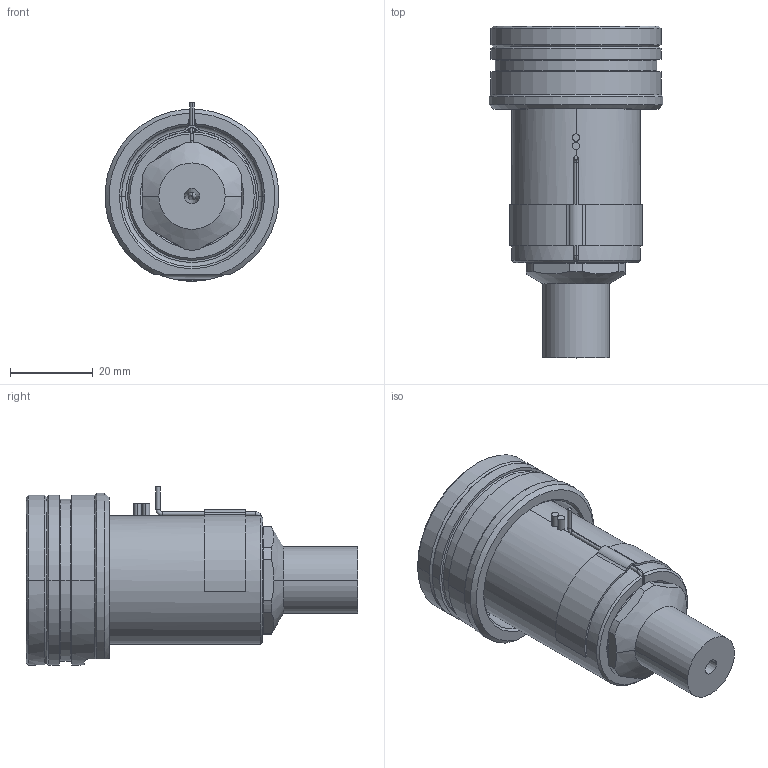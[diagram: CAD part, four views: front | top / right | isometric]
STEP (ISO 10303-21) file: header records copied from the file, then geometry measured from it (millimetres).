
FILE_DESCRIPTION((''),'2;1');
FILE_NAME('EO12_PG-FBE_STD_050_SW','2024-02-19T12:01:22',('sundharh'),(''),'CREO PARAMETRIC BY PTC INC, 2023154','CREO PARAMETRIC BY PTC INC, 2023154','');
FILE_SCHEMA(('CONFIG_CONTROL_DESIGN'));
Length unit declared in the file: millimetre
Products named in the file (1): EO12_PG-FBE_STD_050_SW
Bounding box: 41.85 x 80 x 43 mm (x, y, z)
Volume: 51310.8 mm3; surface area: 18064.2 mm2
Topology: 2 solids, 3 shells, 220 faces, 587 edges, 361 vertices
Faces by surface type: cylinder 82, plane 60, cone 45, torus 27, sphere 3, bspline 3
Entity records: 7879 total; most frequent: CARTESIAN_POINT 2266, DIRECTION 1237, ORIENTED_EDGE 1166, EDGE_CURVE 583, AXIS2_PLACEMENT_3D 520, VERTEX_POINT 361, CIRCLE 303, EDGE_LOOP 238
